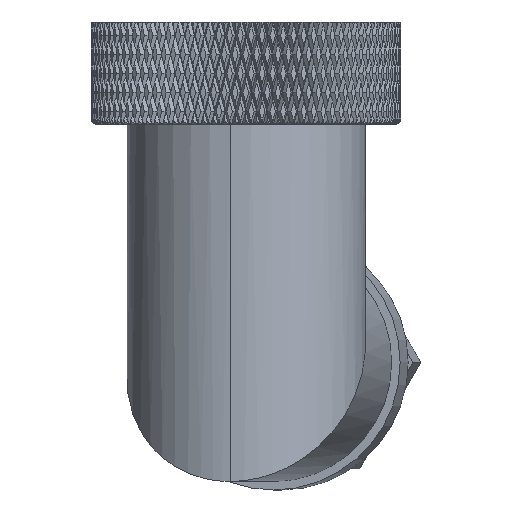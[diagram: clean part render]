
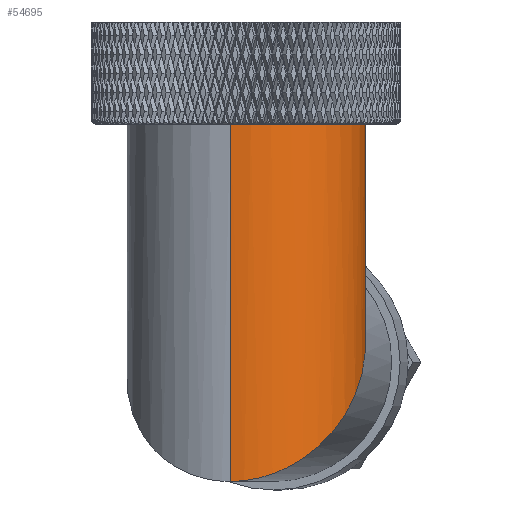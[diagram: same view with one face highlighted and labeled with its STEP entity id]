
A CAD part, left-side view. The second image highlights one B-rep face of the part: STEP entity #54695.
In plain terms, the highlighted cylindrical face has radius 7 mm (diameter 14 mm), a partial arc.
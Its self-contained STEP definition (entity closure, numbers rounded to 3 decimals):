
#3924 = VERTEX_POINT ( 'NONE', #9209 ) ;
#6277 = EDGE_CURVE ( 'NONE', #57932, #3924, #72126, .T. ) ;
#8899 = CARTESIAN_POINT ( 'NONE',  ( 37.675, -0.635, -51.866 ) ) ;
#9209 = CARTESIAN_POINT ( 'NONE',  ( 37.675, -0.635, -58.866 ) ) ;
#11150 = CARTESIAN_POINT ( 'NONE',  ( 23.803, 1.252, -72.866 ) ) ;
#11774 = DIRECTION ( 'NONE',  ( 0.991, -0.135, 0. ) ) ;
#20322 = CARTESIAN_POINT ( 'NONE',  ( 37.675, -0.635, -58.866 ) ) ;
#23803 = VERTEX_POINT ( 'NONE', #8899 ) ;
#24238 = DIRECTION ( 'NONE',  ( 0.991, -0.135, 0. ) ) ;
#26263 = CARTESIAN_POINT ( 'NONE',  ( 30.739, 0.309, -51.866 ) ) ;
#29789 = DIRECTION ( 'NONE',  ( 0., 0., 1. ) ) ;
#32755 = ORIENTED_EDGE ( 'NONE', *, *, #6277, .T. ) ;
#39464 = AXIS2_PLACEMENT_3D ( 'NONE', #26263, #82420, #11774 ) ;
#40414 = VECTOR ( 'NONE', #29789, 1000. ) ;
#40865 = CARTESIAN_POINT ( 'NONE',  ( 23.803, 1.252, -51.866 ) ) ;
#40999 = CYLINDRICAL_SURFACE ( 'NONE', #77137, 7. ) ;
#41196 = CARTESIAN_POINT ( 'NONE',  ( 23.803, 1.252, -72.866 ) ) ;
#44276 = FACE_OUTER_BOUND ( 'NONE', #60184, .T. ) ;
#47628 = VECTOR ( 'NONE', #87108, 1000. ) ;
#47702 = EDGE_CURVE ( 'NONE', #80530, #23803, #73765, .T. ) ;
#48296 = CARTESIAN_POINT ( 'NONE',  ( 21.915, -12.62, -72.866 ) ) ;
#51798 = CARTESIAN_POINT ( 'NONE',  ( 37.675, -0.635, -89.766 ) ) ;
#52454 = LINE ( 'NONE', #51798, #40414 ) ;
#54695 = ADVANCED_FACE ( 'NONE', ( #44276 ), #40999, .T. ) ;
#57932 = VERTEX_POINT ( 'NONE', #11150 ) ;
#60184 = EDGE_LOOP ( 'NONE', ( #81921, #32755, #70232, #72705 ) ) ;
#64029 = LINE ( 'NONE', #65185, #47628 ) ;
#64602 = EDGE_CURVE ( 'NONE', #57932, #80530, #64029, .T. ) ;
#65185 = CARTESIAN_POINT ( 'NONE',  ( 23.803, 1.252, -89.766 ) ) ;
#66225 = DIRECTION ( 'NONE',  ( 0., 0., 1. ) ) ;
#70232 = ORIENTED_EDGE ( 'NONE', *, *, #88659, .T. ) ;
#72126 =( BOUNDED_CURVE ( )  B_SPLINE_CURVE ( 3, ( #41196, #48296, #75316, #20322 ),
 .UNSPECIFIED., .F., .F. ) 
 B_SPLINE_CURVE_WITH_KNOTS ( ( 4, 4 ),
 ( 0., 3.142 ),
 .UNSPECIFIED. ) 
 CURVE ( )  GEOMETRIC_REPRESENTATION_ITEM ( )  RATIONAL_B_SPLINE_CURVE ( ( 1., 0.333, 0.333, 1. ) ) 
 REPRESENTATION_ITEM ( '' )  );
#72705 = ORIENTED_EDGE ( 'NONE', *, *, #47702, .F. ) ;
#73765 = CIRCLE ( 'NONE', #39464, 7. ) ;
#74302 = CARTESIAN_POINT ( 'NONE',  ( 30.739, 0.309, -89.766 ) ) ;
#75316 = CARTESIAN_POINT ( 'NONE',  ( 35.788, -14.507, -58.866 ) ) ;
#77137 = AXIS2_PLACEMENT_3D ( 'NONE', #74302, #66225, #24238 ) ;
#80530 = VERTEX_POINT ( 'NONE', #40865 ) ;
#81921 = ORIENTED_EDGE ( 'NONE', *, *, #64602, .F. ) ;
#82420 = DIRECTION ( 'NONE',  ( 0., 0., 1. ) ) ;
#87108 = DIRECTION ( 'NONE',  ( 0., 0., 1. ) ) ;
#88659 = EDGE_CURVE ( 'NONE', #3924, #23803, #52454, .T. ) ;
